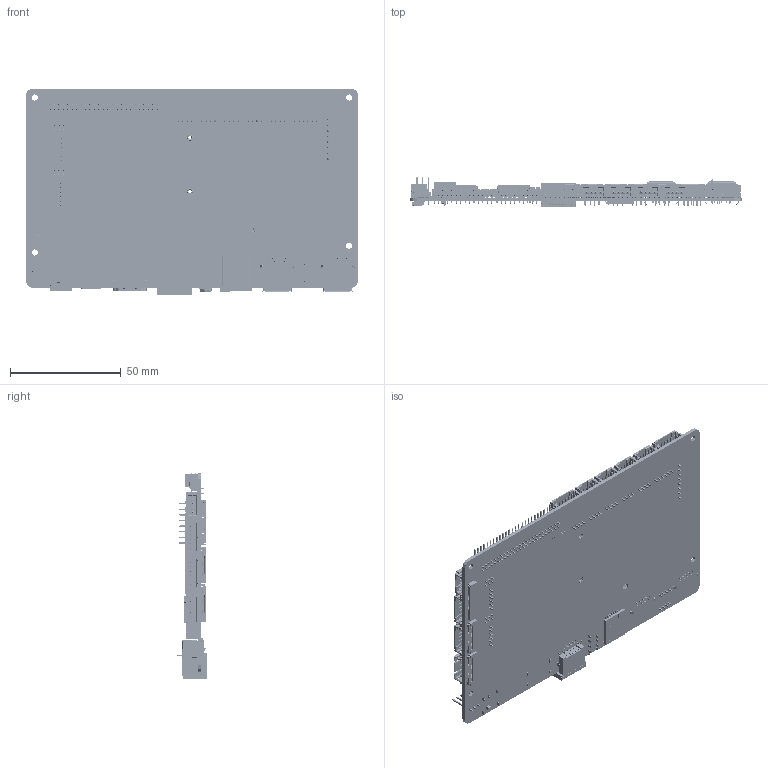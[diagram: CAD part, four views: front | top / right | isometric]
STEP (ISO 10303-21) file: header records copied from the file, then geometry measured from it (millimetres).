
FILE_DESCRIPTION (( 'STEP AP214' ), '1' );
FILE_NAME ('EBF410331V1R0_20240228.STEP', '2026-04-10T02:26:50', ( '' ), ( '' ), 'SwSTEP 2.0', 'SolidWorks 2023', '' );
FILE_SCHEMA (( 'AUTOMOTIVE_DESIGN' ));
Length unit declared in the file: millimetre
Products named in the file (34): 晶存10x15 SDRAM; 侧贴LED红; RK3568; HDMI-019S; ZH1.5直插-2P; PH2.0-6P 间距2.0; USB-301WD-ARY; eMMC-32G; 2.0弯插双排排针20P; PCIE-52P56H; PH-6PWBPZ; User Library-DC044A; M3X3; FPC连接器 针脚数30 间距0.5mm 高度2.0mm 下接 卧贴 翻盖式; 创都1.25T-2A; 侧贴LED绿; 2.54排针3PIN; M2x3 台阶外径4.5整体4.5焊接外径3; PH2.0-4P 间距2.0; 2.00直插双排排针2x3P; 2.54排针 8P; RK809-5; M.2-4总67PIN5.5MM; EBF410331V1R0_DXF_20240228; SD卡座子; RJ45 沉板 带灯 带屏蔽 12p RC01835; 耳机座子插件; FPC24PIN0.5; PH-4PWBPZ; EBF410331V1R0_20240228; HC-XH-4AWT; 2.0弯插双排排针30P; SIM卡mini; Type-C 16P
Assembly tree (56 placements, depth 2):
  EBF410331V1R0_20240228
    EBF410331V1R0_DXF_20240228
    侧贴LED红
    侧贴LED绿
    User Library-DC044A
    Type-C 16P
    HDMI-019S
    RJ45 沉板 带灯 带屏蔽 12p RC01835
    耳机座子插件
    SD卡座子
    USB-301WD-ARY  x2
    PH2.0-4P 间距2.0  x7
    PH2.0-6P 间距2.0  x3
    HC-XH-4AWT
    PH-6PWBPZ  x4
    PH-4PWBPZ  x9
    2.0弯插双排排针30P
    2.0弯插双排排针20P
    ZH1.5直插-2P
    创都1.25T-2A
    2.00直插双排排针2x3P  x2
    2.54排针3PIN
    M.2-4总67PIN5.5MM
    PCIE-52P56H
    M2x3 台阶外径4.5整体4.5焊接外径3  x2
    M3X3
    RK3568
    晶存10x15 SDRAM
    eMMC-32G
    2.54排针 8P
    RK809-5
    FPC24PIN0.5  x2
    FPC连接器 针脚数30 间距0.5mm 高度2.0mm 下接 卧贴 翻盖式
    SIM卡mini
Bounding box: 150 x 13.69 x 93.35 mm (x, y, z)
Topology: 961 solids, 1015 shells, 33052 faces, 91117 edges, 57604 vertices
Faces by surface type: plane 23197, bspline 6784, cylinder 2998, cone 51, torus 20, sphere 2
Entity records: 748257 total; most frequent: CARTESIAN_POINT 241294, ORIENTED_EDGE 110400, DIRECTION 88578, EDGE_CURVE 55207, LINE 41582, VECTOR 41582, VERTEX_POINT 36865, AXIS2_PLACEMENT_3D 23498
